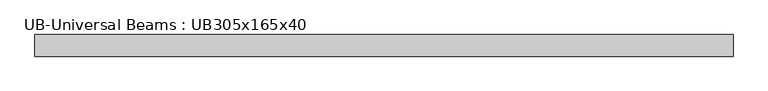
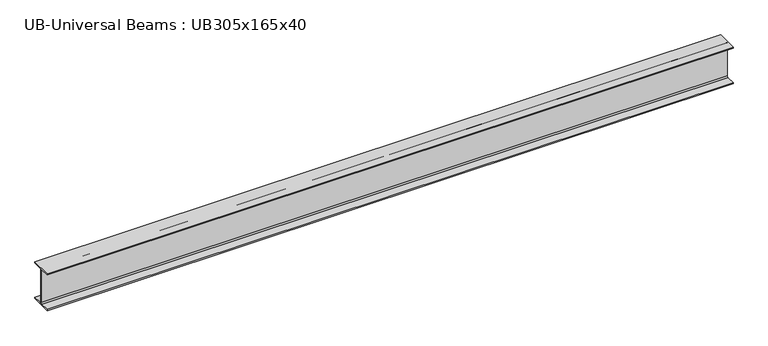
"""IFC4 building model written with IfcOpenShell, lengths in millimetres: beam geometry, UB-Universal Beams : UB305x165x40."""

from ifc_helpers import new_model, si_unit, point, frame, frame_2d, origin, place, context, project, spatial, polyline, circle_curve, trimmed, segment, composite_curve, outline, extrude, source, transform, mapped, element, save


def ub_universal_beams_ub305x165x40_f5bf656f(model_context):
    return source(origin(), model_context, "Body", "SweptSolid", [
        extrude(outline(composite_curve([segment(polyline([(82.5, -141.5), (82.5, -151.7), (-82.5, -151.7), (-82.5, -141.5), (-11.9, -141.5)]), True, "CONTINUOUS"), segment(trimmed(circle_curve(frame_2d((-11.9, -132.6)), 8.9), [point((-11.9, -141.5))], [point((-3.0, -132.6))], True, "CARTESIAN"), True, "CONTINUOUS"), segment(polyline([(-3.0, -132.6), (-3.0, 132.6)]), True, "CONTINUOUS"), segment(trimmed(circle_curve(frame_2d((-11.9, 132.6)), 8.9), [point((-3.0, 132.6))], [point((-11.9, 141.5))], True, "CARTESIAN"), True, "CONTINUOUS"), segment(polyline([(-11.9, 141.5), (-82.5, 141.5), (-82.5, 151.7), (82.5, 151.7), (82.5, 141.5), (11.9, 141.5)]), True, "CONTINUOUS"), segment(trimmed(circle_curve(frame_2d((11.9, 132.6)), 8.9), [point((11.9, 141.5))], [point((3.0, 132.6))], True, "CARTESIAN"), True, "CONTINUOUS"), segment(polyline([(3.0, 132.6), (3.0, -132.6)]), True, "CONTINUOUS"), segment(trimmed(circle_curve(frame_2d((11.9, -132.6)), 8.9), [point((3.0, -132.6))], [point((11.9, -141.5))], True, "CARTESIAN"), True, "CONTINUOUS"), segment(polyline([(11.9, -141.5), (82.5, -141.5)]), True, "CONTINUOUS")], self_intersect=False)), frame((-2707.4460101, 0.0, 0.0), z_axis=(1.0, 0.0, 0.0), x_axis=(0.0, 1.0, 0.0)), (0.0, 0.0, 1.0), 5332.4460101),
    ])


if __name__ == "__main__":
    model = new_model("IFC4")
    model_context = context("Model", 3, world=origin())
    ifc_project = project(units=[si_unit("LENGTHUNIT", "METRE", prefix="MILLI")], contexts=[model_context])
    site = spatial("IfcSite", under=ifc_project)
    building = spatial("IfcBuilding", under=site)
    placement = place(None, origin())
    ub_universal_beams_ub305x165x40_shape = ub_universal_beams_ub305x165x40_f5bf656f(model_context)
    element("IfcBeam", 1, ObjectType="UB-Universal Beams : UB305x165x40", at=placement, inside=building, context=model_context, shape_type="MappedRepresentation", body=[
        mapped(ub_universal_beams_ub305x165x40_shape, transform((0.0, 0.0, 0.0), x_axis=(1.0, 0.0, 0.0), y_axis=(0.0, 1.0, 0.0), z_axis=(0.0, 0.0, 1.0))),
    ])
    save(model, "model.ifc")
